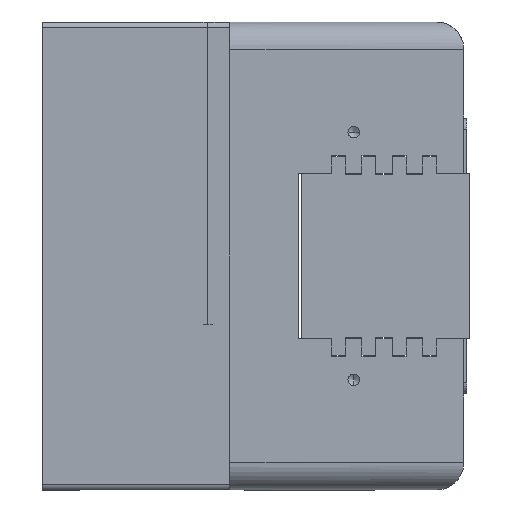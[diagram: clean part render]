
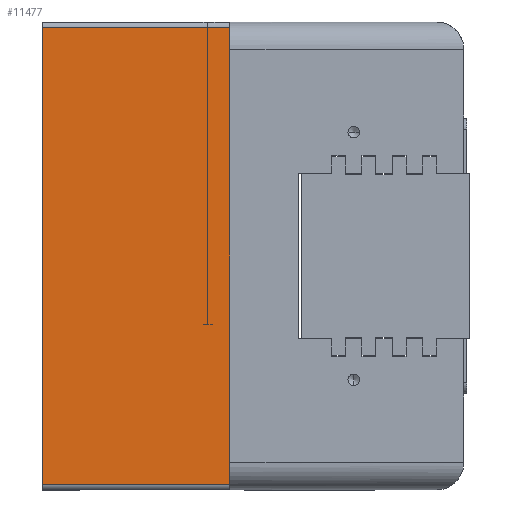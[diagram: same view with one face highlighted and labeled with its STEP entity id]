
A CAD part, left-side view. The second image highlights one B-rep face of the part: STEP entity #11477.
In plain terms, the highlighted planar face has unit normal (-1, 0, 0).
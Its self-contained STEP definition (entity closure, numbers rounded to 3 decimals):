
#609 = VECTOR ( 'NONE', #3784, 1000. ) ;
#1147 = CARTESIAN_POINT ( 'NONE',  ( -142.5, 85., 0. ) ) ;
#1370 = CARTESIAN_POINT ( 'NONE',  ( -142.5, 153., -83. ) ) ;
#1495 = ORIENTED_EDGE ( 'NONE', *, *, #13596, .F. ) ;
#1627 = LINE ( 'NONE', #1147, #12518 ) ;
#1922 = LINE ( 'NONE', #8135, #4842 ) ;
#2217 = CARTESIAN_POINT ( 'NONE',  ( -142.5, 153., -85. ) ) ;
#2650 = VERTEX_POINT ( 'NONE', #12547 ) ;
#3403 = DIRECTION ( 'NONE',  ( 0., 0., -1. ) ) ;
#3784 = DIRECTION ( 'NONE',  ( 0., 1., 0. ) ) ;
#4225 = CARTESIAN_POINT ( 'NONE',  ( -142.5, 153., 83. ) ) ;
#4432 = CARTESIAN_POINT ( 'NONE',  ( -142.5, 153., 83. ) ) ;
#4842 = VECTOR ( 'NONE', #10656, 1000. ) ;
#5037 = CARTESIAN_POINT ( 'NONE',  ( -142.5, 153., -83. ) ) ;
#5400 = VERTEX_POINT ( 'NONE', #4432 ) ;
#5456 = VECTOR ( 'NONE', #14796, 1000. ) ;
#5916 = EDGE_CURVE ( 'NONE', #5400, #7430, #8915, .T. ) ;
#7430 = VERTEX_POINT ( 'NONE', #12434 ) ;
#8042 = EDGE_CURVE ( 'NONE', #9304, #5400, #1922, .T. ) ;
#8135 = CARTESIAN_POINT ( 'NONE',  ( -142.5, 153., 0. ) ) ;
#8915 = LINE ( 'NONE', #4225, #5456 ) ;
#9113 = FACE_OUTER_BOUND ( 'NONE', #10914, .T. ) ;
#9117 = DIRECTION ( 'NONE',  ( 1., 0., 0. ) ) ;
#9304 = VERTEX_POINT ( 'NONE', #1370 ) ;
#10656 = DIRECTION ( 'NONE',  ( 0., 0., 1. ) ) ;
#10914 = EDGE_LOOP ( 'NONE', ( #12712, #11846, #11347, #1495 ) ) ;
#11045 = EDGE_CURVE ( 'NONE', #2650, #9304, #12971, .T. ) ;
#11347 = ORIENTED_EDGE ( 'NONE', *, *, #11045, .F. ) ;
#11477 = ADVANCED_FACE ( 'NONE', ( #9113 ), #13928, .F. ) ;
#11846 = ORIENTED_EDGE ( 'NONE', *, *, #8042, .F. ) ;
#12434 = CARTESIAN_POINT ( 'NONE',  ( -142.5, 85., 83. ) ) ;
#12518 = VECTOR ( 'NONE', #13907, 1000. ) ;
#12547 = CARTESIAN_POINT ( 'NONE',  ( -142.5, 85., -83. ) ) ;
#12712 = ORIENTED_EDGE ( 'NONE', *, *, #5916, .F. ) ;
#12924 = AXIS2_PLACEMENT_3D ( 'NONE', #2217, #9117, #3403 ) ;
#12971 = LINE ( 'NONE', #5037, #609 ) ;
#13596 = EDGE_CURVE ( 'NONE', #7430, #2650, #1627, .T. ) ;
#13907 = DIRECTION ( 'NONE',  ( 0., 0., -1. ) ) ;
#13928 = PLANE ( 'NONE',  #12924 ) ;
#14796 = DIRECTION ( 'NONE',  ( 0., -1., 0. ) ) ;
